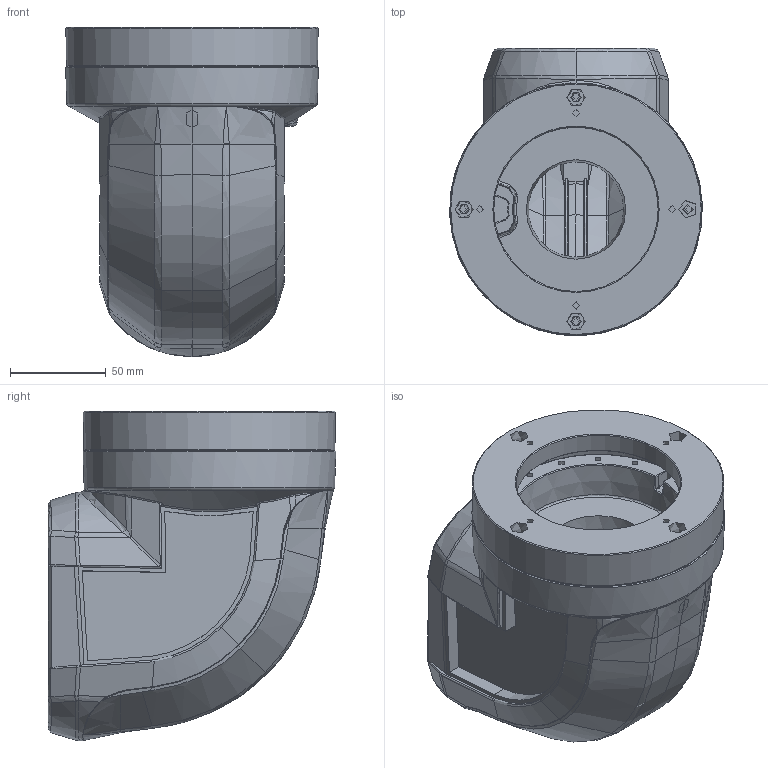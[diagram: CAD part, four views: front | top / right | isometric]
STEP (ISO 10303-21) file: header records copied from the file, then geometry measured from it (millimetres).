
FILE_DESCRIPTION(/* description */ (''),/* implementation_level */ '2;1');
FILE_NAME(/* name */ '75-110-550.stp',/* time_stamp */ '2023-01-13T16:29:19+08:00',/* author */ (''),/* organization */ (''),/* preprocessor_version */ 'ST-DEVELOPER v11',/* originating_system */ 'SIEMENS PLM Software NX 7.0',/* authorisation */ '');
FILE_SCHEMA (('AUTOMOTIVE_DESIGN { 1 0 10303 214 1 1 1 1 }'));
Products named in the file (1): PCCFB1eytr
Bounding box: 131.92 x 150.08 x 171.95 mm (x, y, z)
Volume: 553972 mm3; surface area: 221759 mm2
Topology: 3 solids, 7 shells, 1640 faces, 3917 edges, 2295 vertices
Faces by surface type: bspline 874, cylinder 255, plane 216, torus 163, cone 93, extrusion 25, sphere 14
Full cylindrical faces by diameter (mm): 3.5 x2, 4 x23, 4.5 x1, 8.5 x1, 13.643 x4, 53.886 x1, 85.8 x1
Entity records: 88377 total; most frequent: CARTESIAN_POINT 47493, ORIENTED_EDGE 7424, DIRECTION 4469, EDGE_CURVE 3712, VERTEX_POINT 2247, AXIS2_PLACEMENT_3D 1934, B_SPLINE_CURVE_WITH_KNOTS 1852, EDGE_LOOP 1845
